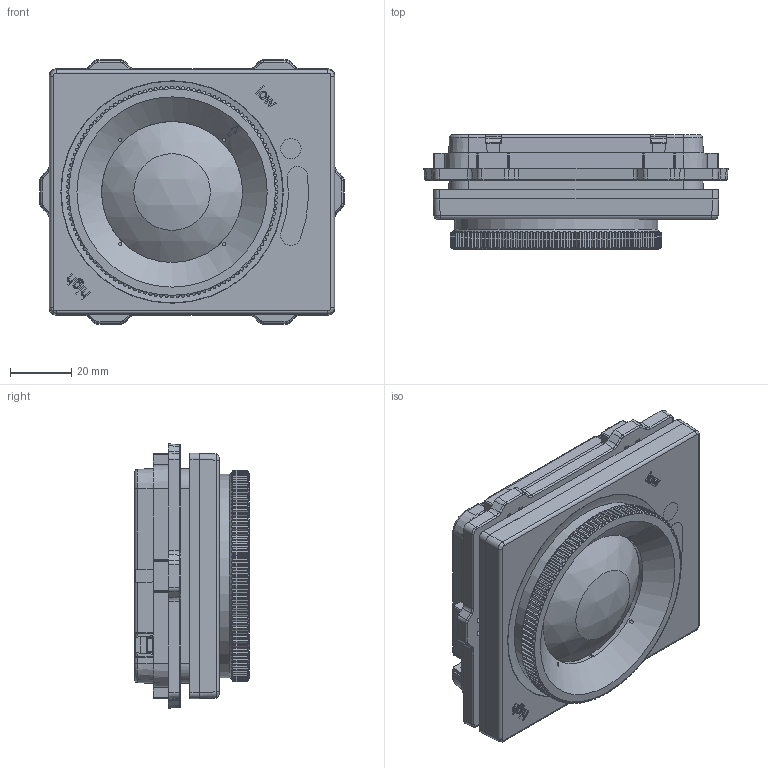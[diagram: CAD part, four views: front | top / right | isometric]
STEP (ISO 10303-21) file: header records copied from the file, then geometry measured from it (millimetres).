
FILE_DESCRIPTION((''),'2;1');
FILE_NAME('D:\Inventor\Tridonic\High_Bay_Sensor\Inventor_High_Level_Sensor\pdf_Dateien\20160723\High_Bay_Sensor_step\Datamec_15009353_01.stp','2016-07-24T19:51:38',('Arbeitsplatz 15'),(''),'Autodesk Inventor 2012','Autodesk Inventor 2012','');
FILE_SCHEMA(('AUTOMOTIVE_DESIGN { 1 0 10303 214 1 1 1 1 }'));
Length unit declared in the file: millimetre
Products named in the file (3): 15009353_01; Datamec_15009353_01a; 07993555
Assembly tree (2 placements, depth 2):
  15009353_01
    Datamec_15009353_01a
    07993555
Bounding box: 99.26 x 37.31 x 86.26 mm (x, y, z)
Volume: 71221.3 mm3; surface area: 90888 mm2
Topology: 2 solids, 3 shells, 1897 faces, 5300 edges, 3435 vertices
Faces by surface type: plane 1285, cylinder 301, cone 173, bspline 82, torus 49, sphere 7
Full cylindrical faces by diameter (mm): 1 x4, 2 x1, 2.2 x1, 6.6 x1, 58.8 x1, 59 x1, 60 x1, 63.2 x1, 64 x1, 66.308 x1
Entity records: 65256 total; most frequent: CARTESIAN_POINT 14879, ORIENTED_EDGE 10460, DIRECTION 10040, EDGE_CURVE 5230, AXIS2_PLACEMENT_3D 3443, VERTEX_POINT 3410, VECTOR 3154, LINE 3154
